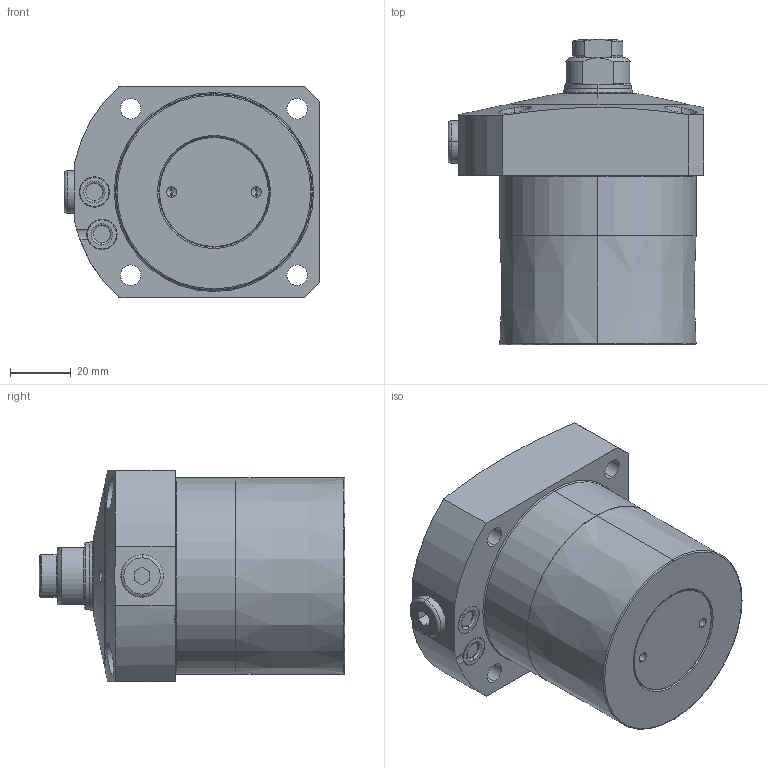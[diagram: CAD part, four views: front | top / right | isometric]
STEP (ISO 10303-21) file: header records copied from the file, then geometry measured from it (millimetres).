
FILE_DESCRIPTION(/* description */ (''),/* implementation_level */ '2;1');
FILE_NAME(/* name */ 'KFSC65.stp',/* time_stamp */ '2026-02-04T15:09:56+08:00',/* author */ (''),/* organization */ (''),/* preprocessor_version */ 'ST-DEVELOPER v16.7',/* originating_system */ 'SIEMENS PLM Software NX 12.0',/* authorisation */ '');
FILE_SCHEMA (('AUTOMOTIVE_DESIGN { 1 0 10303 214 3 1 1 1 }'));
Length unit declared in the file: millimetre
Products named in the file (8): XLC-M12_contactbolt4695; XLC-M12_o-ring4867; KFSC65-01; KFSC65-04; P7-1; KFSC65-02; KFSC65-03; LC0653-Cx_step
Assembly tree (8 placements, depth 3):
  LC0653-Cx_step
    KFSC65-02
    P7-1  x2
    KFSC65-03
      XLC-M12_o-ring4867
      XLC-M12_contactbolt4695
    KFSC65-04
    KFSC65-01
Bounding box: 84.5 x 101 x 70 mm (x, y, z)
Volume: 312166.7 mm3; surface area: 37112.2 mm2
Topology: 7 solids, 7 shells, 236 faces, 517 edges, 311 vertices
Faces by surface type: cylinder 77, torus 60, plane 54, cone 43, sphere 2
Entity records: 6750 total; most frequent: CARTESIAN_POINT 1412, DIRECTION 1194, ORIENTED_EDGE 970, AXIS2_PLACEMENT_3D 517, EDGE_CURVE 485, VERTEX_POINT 297, CIRCLE 284, EDGE_LOOP 260
